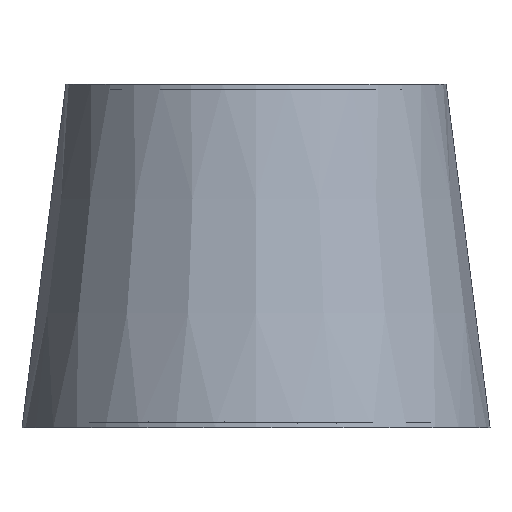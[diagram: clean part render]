
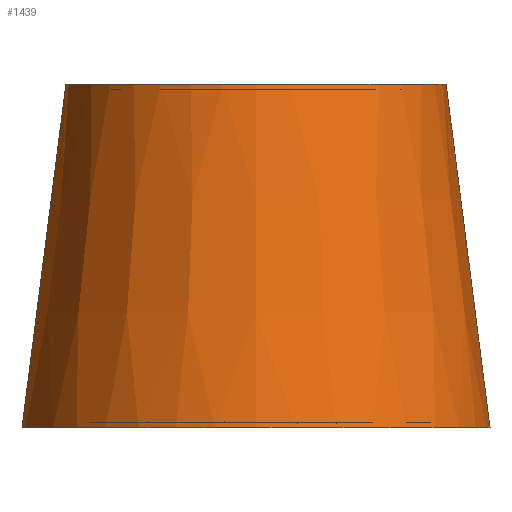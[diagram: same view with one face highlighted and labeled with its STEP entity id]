
A CAD part, front view. The second image highlights one B-rep face of the part: STEP entity #1439.
In plain terms, the highlighted conical face has half-angle 7.275 degrees and reference radius 38.597 mm.
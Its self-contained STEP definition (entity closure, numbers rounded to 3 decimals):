
#18=CONICAL_SURFACE('',#1559,38.597,0.127);
#200=FACE_OUTER_BOUND('',#286,.T.);
#286=EDGE_LOOP('',(#1205,#1206,#1207,#1208));
#338=CIRCLE('',#1499,160.);
#362=CIRCLE('',#1560,130.);
#465=LINE('',#3095,#571);
#466=LINE('',#3098,#572);
#571=VECTOR('',#1869,1.);
#572=VECTOR('',#1872,1.);
#611=VERTEX_POINT('',#2043);
#612=VERTEX_POINT('',#2044);
#709=VERTEX_POINT('',#3094);
#710=VERTEX_POINT('',#3096);
#759=EDGE_CURVE('',#611,#612,#338,.T.);
#901=EDGE_CURVE('',#709,#612,#465,.T.);
#902=EDGE_CURVE('',#710,#709,#362,.T.);
#903=EDGE_CURVE('',#611,#710,#466,.T.);
#1205=ORIENTED_EDGE('',*,*,#901,.F.);
#1206=ORIENTED_EDGE('',*,*,#902,.F.);
#1207=ORIENTED_EDGE('',*,*,#903,.F.);
#1208=ORIENTED_EDGE('',*,*,#759,.T.);
#1439=ADVANCED_FACE('',(#200),#18,.T.);
#1499=AXIS2_PLACEMENT_3D('',#2045,#1671,#1672);
#1559=AXIS2_PLACEMENT_3D('',#3093,#1867,#1868);
#1560=AXIS2_PLACEMENT_3D('',#3097,#1870,#1871);
#1671=DIRECTION('center_axis',(0.,0.,1.));
#1672=DIRECTION('ref_axis',(1.,-0.001,0.));
#1867=DIRECTION('center_axis',(0.,0.,-1.));
#1868=DIRECTION('ref_axis',(1.,-0.001,0.));
#1869=DIRECTION('',(0.127,0.,-0.992));
#1870=DIRECTION('center_axis',(0.,0.,1.));
#1871=DIRECTION('ref_axis',(1.,-0.001,0.));
#1872=DIRECTION('',(0.127,0.,0.992));
#2043=CARTESIAN_POINT('',(-160.,0.174,0.));
#2044=CARTESIAN_POINT('',(160.,-0.174,0.));
#2045=CARTESIAN_POINT('Origin',(0.,0.,0.));
#3093=CARTESIAN_POINT('Origin',(0.,0.,950.987));
#3094=CARTESIAN_POINT('',(130.,-0.141,235.));
#3095=CARTESIAN_POINT('',(130.,-0.141,235.));
#3096=CARTESIAN_POINT('',(-130.,0.141,235.));
#3097=CARTESIAN_POINT('Origin',(0.,0.,235.));
#3098=CARTESIAN_POINT('',(-160.,0.174,0.));
